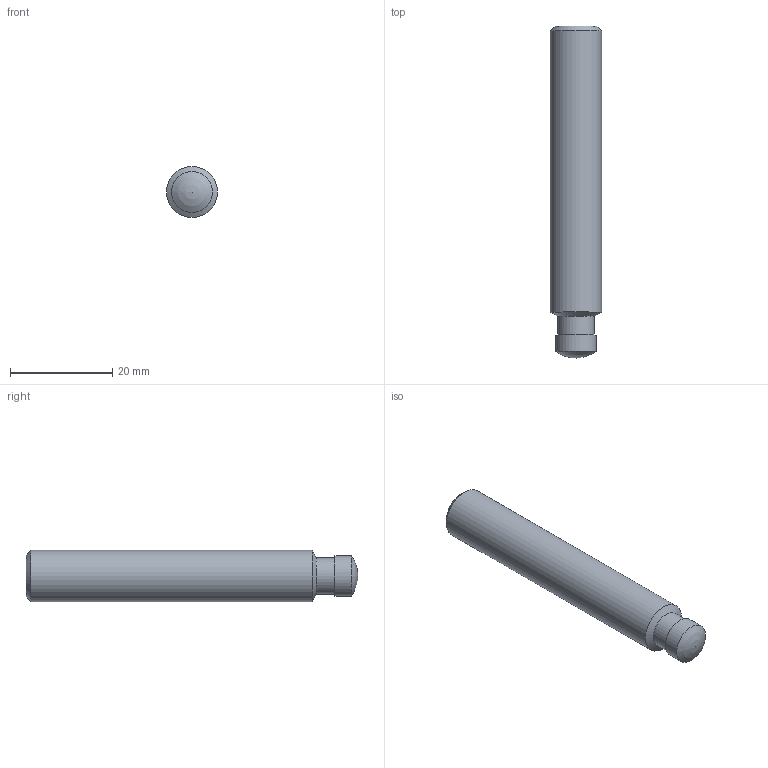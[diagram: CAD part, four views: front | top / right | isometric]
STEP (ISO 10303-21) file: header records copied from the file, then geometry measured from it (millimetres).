
FILE_DESCRIPTION( ( 'STEP AP203' ), '1' );
FILE_NAME( 'C:/Temp/Ganter_Step_05_03_2020/data/3_2/din6332/din6332_zb/Grub screw DIN 6332-M10-65-SKN-ZB.stp', '2020-03-13T05:16:35', ( 'License CC BY-ND 4.0' ), ( 'CADENAS' ), ' ', 'PARTsolutions', ' ' );
FILE_SCHEMA( ( 'CONFIG_CONTROL_DESIGN' ) );
Length unit declared in the file: millimetre
Products named in the file (1): _Grub screw DIN 6332-M10-65-SKN-ZB
Bounding box: 10 x 65 x 10 mm (x, y, z)
Volume: 4712.9 mm3; surface area: 2144.3 mm2
Topology: 1 solids, 1 shells, 15 faces, 33 edges, 21 vertices
Faces by surface type: plane 9, cylinder 3, cone 2, sphere 1
Full cylindrical faces by diameter (mm): 7.2 x1, 8 x1, 10 x1
Entity records: 410 total; most frequent: DIRECTION 64, CARTESIAN_POINT 61, ORIENTED_EDGE 50, EDGE_CURVE 25, AXIS2_PLACEMENT_3D 23, EDGE_LOOP 22, VERTEX_POINT 20, FACE_OUTER_BOUND 18
